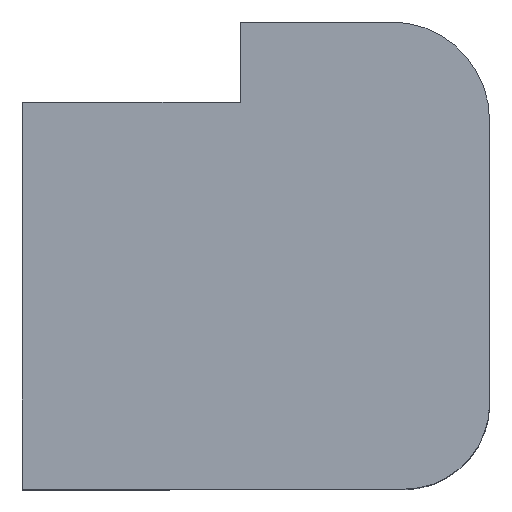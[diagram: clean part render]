
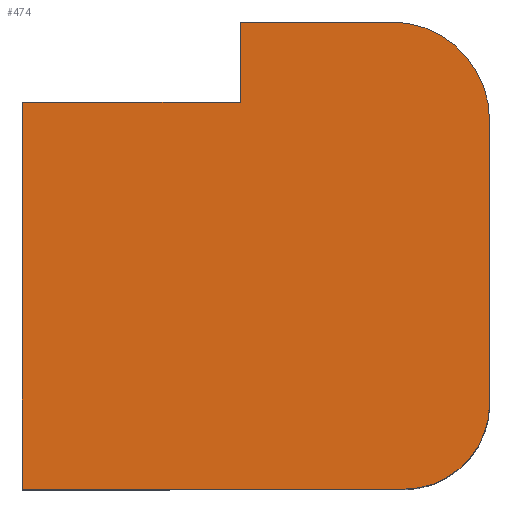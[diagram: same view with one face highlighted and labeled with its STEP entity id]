
A CAD part, top view. The second image highlights one B-rep face of the part: STEP entity #474.
In plain terms, the highlighted planar face has unit normal (0, 0, 1).
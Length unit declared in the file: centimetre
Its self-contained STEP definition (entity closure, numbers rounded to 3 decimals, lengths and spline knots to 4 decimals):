
#4 = PLANE ( 'NONE',  #977 ) ;
#13 = VECTOR ( 'NONE', #988, 100. ) ;
#21 = ORIENTED_EDGE ( 'NONE', *, *, #882, .T. ) ;
#29 = VECTOR ( 'NONE', #767, 100. ) ;
#45 = EDGE_LOOP ( 'NONE', ( #144, #21, #458, #329, #1010, #964, #520, #1016 ) ) ;
#59 = CARTESIAN_POINT ( 'NONE',  ( 0., 0., 1000. ) ) ;
#66 = DIRECTION ( 'NONE',  ( 0., 0., 1. ) ) ;
#72 = CARTESIAN_POINT ( 'NONE',  ( 0., 0., 1000. ) ) ;
#81 = AXIS2_PLACEMENT_3D ( 'NONE', #174, #677, #674 ) ;
#96 = CARTESIAN_POINT ( 'NONE',  ( 466.451, 1000., 1000. ) ) ;
#131 = CIRCLE ( 'NONE', #460, 183.3687 ) ;
#133 = DIRECTION ( 'NONE',  ( 0., -1., 0. ) ) ;
#144 = ORIENTED_EDGE ( 'NONE', *, *, #457, .T. ) ;
#152 = CARTESIAN_POINT ( 'NONE',  ( 466.451, 827.9305, 1000. ) ) ;
#174 = CARTESIAN_POINT ( 'NONE',  ( 789.7623, 789.7623, 1000. ) ) ;
#184 = VERTEX_POINT ( 'NONE', #152 ) ;
#200 = VERTEX_POINT ( 'NONE', #643 ) ;
#207 = VERTEX_POINT ( 'NONE', #72 ) ;
#232 = VECTOR ( 'NONE', #768, 100. ) ;
#250 = VECTOR ( 'NONE', #133, 100. ) ;
#256 = FACE_OUTER_BOUND ( 'NONE', #45, .T. ) ;
#296 = DIRECTION ( 'NONE',  ( 1., 0., 0. ) ) ;
#329 = ORIENTED_EDGE ( 'NONE', *, *, #837, .T. ) ;
#337 = CARTESIAN_POINT ( 'NONE',  ( 466.451, 827.9305, 1000. ) ) ;
#346 = LINE ( 'NONE', #760, #232 ) ;
#360 = VERTEX_POINT ( 'NONE', #895 ) ;
#380 = CARTESIAN_POINT ( 'NONE',  ( 789.7623, 1000., 1000. ) ) ;
#457 = EDGE_CURVE ( 'NONE', #184, #360, #595, .T. ) ;
#458 = ORIENTED_EDGE ( 'NONE', *, *, #660, .T. ) ;
#460 = AXIS2_PLACEMENT_3D ( 'NONE', #1054, #66, #296 ) ;
#462 = DIRECTION ( 'NONE',  ( 1., 0., 0. ) ) ;
#464 = EDGE_CURVE ( 'NONE', #606, #624, #1066, .T. ) ;
#474 = ADVANCED_FACE ( 'NONE', ( #256 ), #4, .T. ) ;
#479 = VERTEX_POINT ( 'NONE', #96 ) ;
#499 = EDGE_CURVE ( 'NONE', #624, #479, #846, .T. ) ;
#504 = LINE ( 'NONE', #610, #509 ) ;
#509 = VECTOR ( 'NONE', #782, 100. ) ;
#520 = ORIENTED_EDGE ( 'NONE', *, *, #499, .T. ) ;
#533 = EDGE_CURVE ( 'NONE', #184, #479, #504, .T. ) ;
#568 = VECTOR ( 'NONE', #462, 100. ) ;
#591 = CARTESIAN_POINT ( 'NONE',  ( 0., 1000., 1000. ) ) ;
#595 = LINE ( 'NONE', #337, #13 ) ;
#606 = VERTEX_POINT ( 'NONE', #1036 ) ;
#610 = CARTESIAN_POINT ( 'NONE',  ( 466.451, 1000., 1000. ) ) ;
#624 = VERTEX_POINT ( 'NONE', #380 ) ;
#643 = CARTESIAN_POINT ( 'NONE',  ( 1000., 183.3687, 1000. ) ) ;
#660 = EDGE_CURVE ( 'NONE', #207, #778, #710, .T. ) ;
#674 = DIRECTION ( 'NONE',  ( 1., 0., 0. ) ) ;
#677 = DIRECTION ( 'NONE',  ( 0., 0., 1. ) ) ;
#710 = LINE ( 'NONE', #59, #568 ) ;
#760 = CARTESIAN_POINT ( 'NONE',  ( 1000., 1000., 1000. ) ) ;
#767 = DIRECTION ( 'NONE',  ( -1., 0., 0. ) ) ;
#768 = DIRECTION ( 'NONE',  ( 0., 1., 0. ) ) ;
#778 = VERTEX_POINT ( 'NONE', #1045 ) ;
#782 = DIRECTION ( 'NONE',  ( 0., 1., 0. ) ) ;
#833 = DIRECTION ( 'NONE',  ( 0., 0., 1. ) ) ;
#837 = EDGE_CURVE ( 'NONE', #778, #200, #131, .T. ) ;
#840 = DIRECTION ( 'NONE',  ( 1., 0., 0. ) ) ;
#846 = LINE ( 'NONE', #591, #29 ) ;
#878 = CARTESIAN_POINT ( 'NONE',  ( 0., 1000., 1000. ) ) ;
#882 = EDGE_CURVE ( 'NONE', #360, #207, #955, .T. ) ;
#895 = CARTESIAN_POINT ( 'NONE',  ( 0., 827.9305, 1000. ) ) ;
#918 = CARTESIAN_POINT ( 'NONE',  ( 0., 0., 1000. ) ) ;
#955 = LINE ( 'NONE', #878, #250 ) ;
#964 = ORIENTED_EDGE ( 'NONE', *, *, #464, .T. ) ;
#977 = AXIS2_PLACEMENT_3D ( 'NONE', #918, #833, #840 ) ;
#988 = DIRECTION ( 'NONE',  ( -1., 0., 0. ) ) ;
#1010 = ORIENTED_EDGE ( 'NONE', *, *, #1031, .T. ) ;
#1016 = ORIENTED_EDGE ( 'NONE', *, *, #533, .F. ) ;
#1031 = EDGE_CURVE ( 'NONE', #200, #606, #346, .T. ) ;
#1036 = CARTESIAN_POINT ( 'NONE',  ( 1000., 789.7623, 1000. ) ) ;
#1045 = CARTESIAN_POINT ( 'NONE',  ( 816.6313, 0., 1000. ) ) ;
#1054 = CARTESIAN_POINT ( 'NONE',  ( 816.6313, 183.3687, 1000. ) ) ;
#1066 = CIRCLE ( 'NONE', #81, 210.2377 ) ;
